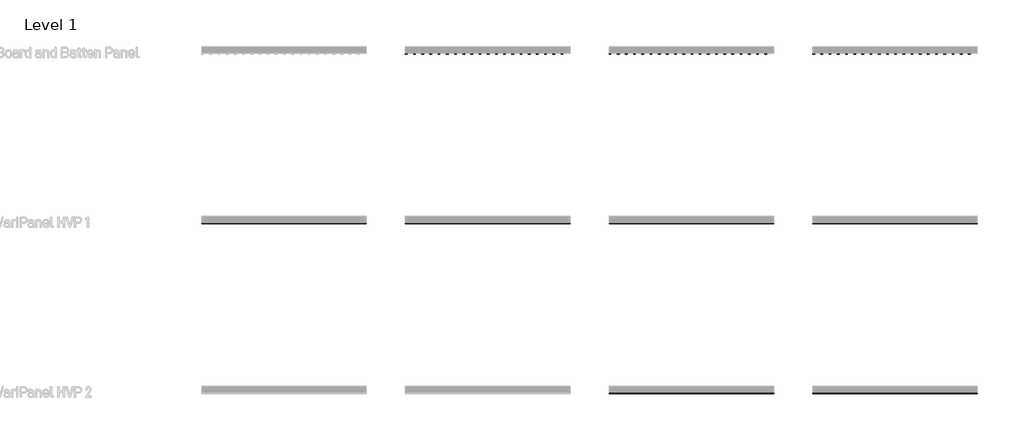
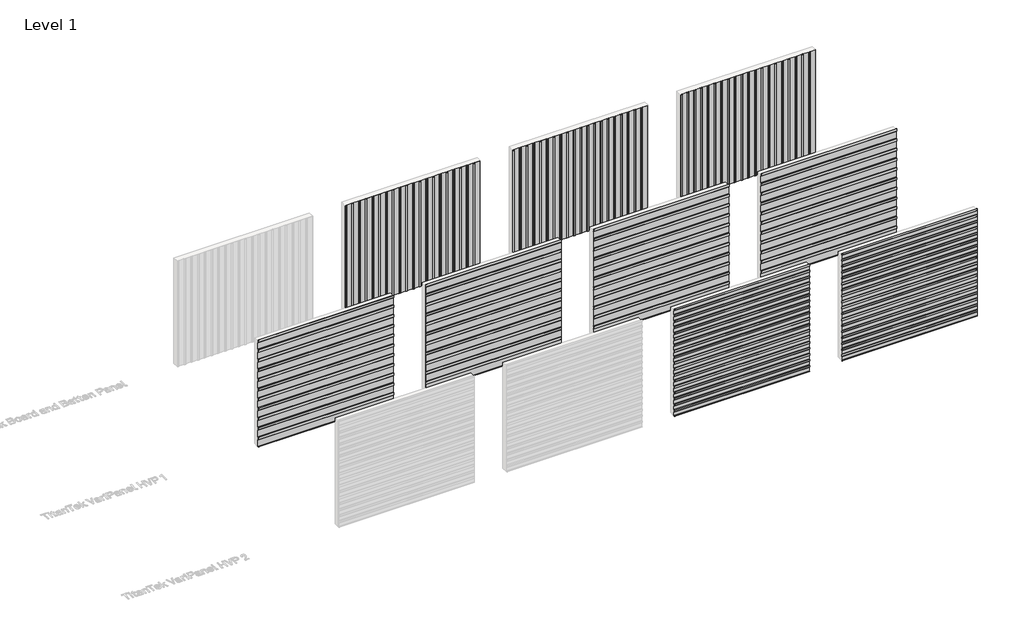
# One storey, part 9 of 33: 9 proxies.
"""IFC4 building model written with IfcOpenShell, lengths in millimetres."""

from ifc_helpers import new_model, si_unit, frame, origin, place, context, project, spatial, polyline, outline, extrude, transform, mapped, element, save
from components import titantek_board_and_batten_panel_aluminum_slate_gray_d83a0c41

model = new_model("IFC4")

# Units and contexts
model_context = context("Model", 3, world=origin())
ifc_project = project(units=[si_unit("LENGTHUNIT", "METRE", prefix="MILLI")], contexts=[model_context])

# Site, building, storey
site = spatial("IfcSite", under=ifc_project)
building = spatial("IfcBuilding", under=site)
storey = spatial("IfcBuildingStorey", under=building, Name="Level 1", Elevation=0.0)

# Proxies
placement = place(None, origin())
element("IfcBuildingElementProxy", 1, Name="TitanTek VariPanel HVP 1 : Aluminum Slate Gray", ObjectType="TitanTek VariPanel HVP 1 : Aluminum Slate Gray", at=placement, inside=storey, context=model_context, shape_type="SweptSolid", body=[
    extrude(outline(polyline([(-7945.79831, 3962.4494524), (-7921.3904975, 3937.4691739), (-7921.3904975, 3692.3692814), (-7945.79831, 3683.0), (-7945.79831, 3684.0627767), (-7922.382685, 3693.051193), (-7922.382685, 3937.064917), (-7946.7904975, 3962.0451955), (-7946.7904975, 4051.9819116), (-7945.79831, 4052.3627767), (-7945.79831, 3962.4494524)])), frame((-2360.5897817, 0.0, 0.0), z_axis=(1.0, 0.0, 0.0), x_axis=(0.0, 1.0, 0.0)), (0.0, 0.0, 1.0), 4850.0),
    extrude(outline(polyline([(-7945.79831, 3594.1494524), (-7921.3904975, 3569.1691739), (-7921.3904975, 3324.0692814), (-7945.79831, 3314.7), (-7945.79831, 3315.7627767), (-7922.382685, 3324.751193), (-7922.382685, 3568.764917), (-7946.7904975, 3593.7451955), (-7946.7904975, 3683.6819116), (-7945.79831, 3684.0627767), (-7945.79831, 3594.1494524)])), frame((-2360.5897817, 0.0, 0.0), z_axis=(1.0, 0.0, 0.0), x_axis=(0.0, 1.0, 0.0)), (0.0, 0.0, 1.0), 4850.0),
    extrude(outline(polyline([(-7945.79831, 3225.8494524), (-7921.3904975, 3200.8691739), (-7921.3904975, 2955.7692814), (-7945.79831, 2946.4), (-7945.79831, 2947.4627767), (-7922.382685, 2956.451193), (-7922.382685, 3200.464917), (-7946.7904975, 3225.4451955), (-7946.7904975, 3315.3819116), (-7945.79831, 3315.7627767), (-7945.79831, 3225.8494524)])), frame((-2360.5897817, 0.0, 0.0), z_axis=(1.0, 0.0, 0.0), x_axis=(0.0, 1.0, 0.0)), (0.0, 0.0, 1.0), 4850.0),
    extrude(outline(polyline([(-7945.79831, 2857.5494524), (-7921.3904975, 2832.5691739), (-7921.3904975, 2587.4692814), (-7945.79831, 2578.1), (-7945.79831, 2579.1627767), (-7922.382685, 2588.151193), (-7922.382685, 2832.164917), (-7946.7904975, 2857.1451955), (-7946.7904975, 2947.0819116), (-7945.79831, 2947.4627767), (-7945.79831, 2857.5494524)])), frame((-2360.5897817, 0.0, 0.0), z_axis=(1.0, 0.0, 0.0), x_axis=(0.0, 1.0, 0.0)), (0.0, 0.0, 1.0), 4850.0),
    extrude(outline(polyline([(-7945.79831, 2489.2494524), (-7921.3904975, 2464.2691739), (-7921.3904975, 2219.1692814), (-7945.79831, 2209.8), (-7945.79831, 2210.8627767), (-7922.382685, 2219.851193), (-7922.382685, 2463.864917), (-7946.7904975, 2488.8451955), (-7946.7904975, 2578.7819116), (-7945.79831, 2579.1627767), (-7945.79831, 2489.2494524)])), frame((-2360.5897817, 0.0, 0.0), z_axis=(1.0, 0.0, 0.0), x_axis=(0.0, 1.0, 0.0)), (0.0, 0.0, 1.0), 4850.0),
    extrude(outline(polyline([(-7945.79831, 2120.9494524), (-7921.3904975, 2095.9691739), (-7921.3904975, 1850.8692814), (-7945.79831, 1841.5), (-7945.79831, 1842.5627767), (-7922.382685, 1851.551193), (-7922.382685, 2095.564917), (-7946.7904975, 2120.5451955), (-7946.7904975, 2210.4819116), (-7945.79831, 2210.8627767), (-7945.79831, 2120.9494524)])), frame((-2360.5897817, 0.0, 0.0), z_axis=(1.0, 0.0, 0.0), x_axis=(0.0, 1.0, 0.0)), (0.0, 0.0, 1.0), 4850.0),
    extrude(outline(polyline([(-7945.79831, 1752.6494524), (-7921.3904975, 1727.6691739), (-7921.3904975, 1482.5692814), (-7945.79831, 1473.2), (-7945.79831, 1474.2627767), (-7922.382685, 1483.251193), (-7922.382685, 1727.264917), (-7946.7904975, 1752.2451955), (-7946.7904975, 1842.1819116), (-7945.79831, 1842.5627767), (-7945.79831, 1752.6494524)])), frame((-2360.5897817, 0.0, 0.0), z_axis=(1.0, 0.0, 0.0), x_axis=(0.0, 1.0, 0.0)), (0.0, 0.0, 1.0), 4850.0),
    extrude(outline(polyline([(-7945.79831, 1384.3494524), (-7921.3904975, 1359.3691739), (-7921.3904975, 1114.2692814), (-7945.79831, 1104.9), (-7945.79831, 1105.9627767), (-7922.382685, 1114.951193), (-7922.382685, 1358.964917), (-7946.7904975, 1383.9451955), (-7946.7904975, 1473.8819116), (-7945.79831, 1474.2627767), (-7945.79831, 1384.3494524)])), frame((-2360.5897817, 0.0, 0.0), z_axis=(1.0, 0.0, 0.0), x_axis=(0.0, 1.0, 0.0)), (0.0, 0.0, 1.0), 4850.0),
    extrude(outline(polyline([(-7945.79831, 1016.0494524), (-7921.3904975, 991.0691739), (-7921.3904975, 745.9692814), (-7945.79831, 736.6), (-7945.79831, 737.6627767), (-7922.382685, 746.651193), (-7922.382685, 990.664917), (-7946.7904975, 1015.6451955), (-7946.7904975, 1105.5819116), (-7945.79831, 1105.9627767), (-7945.79831, 1016.0494524)])), frame((-2360.5897817, 0.0, 0.0), z_axis=(1.0, 0.0, 0.0), x_axis=(0.0, 1.0, 0.0)), (0.0, 0.0, 1.0), 4850.0),
    extrude(outline(polyline([(-7945.79831, 647.7494524), (-7921.3904975, 622.7691739), (-7921.3904975, 377.6692814), (-7945.79831, 368.3), (-7945.79831, 369.3627767), (-7922.382685, 378.351193), (-7922.382685, 622.364917), (-7946.7904975, 647.3451955), (-7946.7904975, 737.2819116), (-7945.79831, 737.6627767), (-7945.79831, 647.7494524)])), frame((-2360.5897817, 0.0, 0.0), z_axis=(1.0, 0.0, 0.0), x_axis=(0.0, 1.0, 0.0)), (0.0, 0.0, 1.0), 4850.0),
    extrude(outline(polyline([(-7945.79831, 279.4494524), (-7921.3904975, 254.4691739), (-7921.3904975, 9.3692814), (-7945.79831, 0.0), (-7945.79831, 1.0627767), (-7922.382685, 10.051193), (-7922.382685, 254.064917), (-7946.7904975, 279.0451955), (-7946.7904975, 368.9819116), (-7945.79831, 369.3627767), (-7945.79831, 279.4494524)])), frame((-2360.5897817, 0.0, 0.0), z_axis=(1.0, 0.0, 0.0), x_axis=(0.0, 1.0, 0.0)), (0.0, 0.0, 1.0), 4850.0),
])
element("IfcBuildingElementProxy", 2, Name="TitanTek VariPanel HVP 1 : Steel Bone White", ObjectType="TitanTek VariPanel HVP 1 : Steel Bone White", at=placement, inside=storey, context=model_context, shape_type="SweptSolid", body=[
    extrude(outline(polyline([(-7945.79831, 279.4494524), (-7921.3904975, 254.4691739), (-7921.3904975, 9.3692814), (-7945.79831, 0.0), (-7945.79831, 1.0627767), (-7922.382685, 10.051193), (-7922.382685, 254.064917), (-7946.7904975, 279.0451955), (-7946.7904975, 368.9819116), (-7945.79831, 369.3627767), (-7945.79831, 279.4494524)])), frame((15639.4102183, 0.0, 0.0), z_axis=(1.0, 0.0, 0.0), x_axis=(0.0, 1.0, 0.0)), (0.0, 0.0, 1.0), 4850.0),
    extrude(outline(polyline([(-7945.79831, 647.7494524), (-7921.3904975, 622.7691739), (-7921.3904975, 377.6692814), (-7945.79831, 368.3), (-7945.79831, 369.3627767), (-7922.382685, 378.351193), (-7922.382685, 622.364917), (-7946.7904975, 647.3451955), (-7946.7904975, 737.2819116), (-7945.79831, 737.6627767), (-7945.79831, 647.7494524)])), frame((15639.4102183, 0.0, 0.0), z_axis=(1.0, 0.0, 0.0), x_axis=(0.0, 1.0, 0.0)), (0.0, 0.0, 1.0), 4850.0),
    extrude(outline(polyline([(-7945.79831, 1016.0494524), (-7921.3904975, 991.0691739), (-7921.3904975, 745.9692814), (-7945.79831, 736.6), (-7945.79831, 737.6627767), (-7922.382685, 746.651193), (-7922.382685, 990.664917), (-7946.7904975, 1015.6451955), (-7946.7904975, 1105.5819116), (-7945.79831, 1105.9627767), (-7945.79831, 1016.0494524)])), frame((15639.4102183, 0.0, 0.0), z_axis=(1.0, 0.0, 0.0), x_axis=(0.0, 1.0, 0.0)), (0.0, 0.0, 1.0), 4850.0),
    extrude(outline(polyline([(-7945.79831, 1384.3494524), (-7921.3904975, 1359.3691739), (-7921.3904975, 1114.2692814), (-7945.79831, 1104.9), (-7945.79831, 1105.9627767), (-7922.382685, 1114.951193), (-7922.382685, 1358.964917), (-7946.7904975, 1383.9451955), (-7946.7904975, 1473.8819116), (-7945.79831, 1474.2627767), (-7945.79831, 1384.3494524)])), frame((15639.4102183, 0.0, 0.0), z_axis=(1.0, 0.0, 0.0), x_axis=(0.0, 1.0, 0.0)), (0.0, 0.0, 1.0), 4850.0),
    extrude(outline(polyline([(-7945.79831, 1752.6494524), (-7921.3904975, 1727.6691739), (-7921.3904975, 1482.5692814), (-7945.79831, 1473.2), (-7945.79831, 1474.2627767), (-7922.382685, 1483.251193), (-7922.382685, 1727.264917), (-7946.7904975, 1752.2451955), (-7946.7904975, 1842.1819116), (-7945.79831, 1842.5627767), (-7945.79831, 1752.6494524)])), frame((15639.4102183, 0.0, 0.0), z_axis=(1.0, 0.0, 0.0), x_axis=(0.0, 1.0, 0.0)), (0.0, 0.0, 1.0), 4850.0),
    extrude(outline(polyline([(-7945.79831, 2120.9494524), (-7921.3904975, 2095.9691739), (-7921.3904975, 1850.8692814), (-7945.79831, 1841.5), (-7945.79831, 1842.5627767), (-7922.382685, 1851.551193), (-7922.382685, 2095.564917), (-7946.7904975, 2120.5451955), (-7946.7904975, 2210.4819116), (-7945.79831, 2210.8627767), (-7945.79831, 2120.9494524)])), frame((15639.4102183, 0.0, 0.0), z_axis=(1.0, 0.0, 0.0), x_axis=(0.0, 1.0, 0.0)), (0.0, 0.0, 1.0), 4850.0),
    extrude(outline(polyline([(-7945.79831, 2489.2494524), (-7921.3904975, 2464.2691739), (-7921.3904975, 2219.1692814), (-7945.79831, 2209.8), (-7945.79831, 2210.8627767), (-7922.382685, 2219.851193), (-7922.382685, 2463.864917), (-7946.7904975, 2488.8451955), (-7946.7904975, 2578.7819116), (-7945.79831, 2579.1627767), (-7945.79831, 2489.2494524)])), frame((15639.4102183, 0.0, 0.0), z_axis=(1.0, 0.0, 0.0), x_axis=(0.0, 1.0, 0.0)), (0.0, 0.0, 1.0), 4850.0),
    extrude(outline(polyline([(-7945.79831, 2857.5494524), (-7921.3904975, 2832.5691739), (-7921.3904975, 2587.4692814), (-7945.79831, 2578.1), (-7945.79831, 2579.1627767), (-7922.382685, 2588.151193), (-7922.382685, 2832.164917), (-7946.7904975, 2857.1451955), (-7946.7904975, 2947.0819116), (-7945.79831, 2947.4627767), (-7945.79831, 2857.5494524)])), frame((15639.4102183, 0.0, 0.0), z_axis=(1.0, 0.0, 0.0), x_axis=(0.0, 1.0, 0.0)), (0.0, 0.0, 1.0), 4850.0),
    extrude(outline(polyline([(-7945.79831, 3225.8494524), (-7921.3904975, 3200.8691739), (-7921.3904975, 2955.7692814), (-7945.79831, 2946.4), (-7945.79831, 2947.4627767), (-7922.382685, 2956.451193), (-7922.382685, 3200.464917), (-7946.7904975, 3225.4451955), (-7946.7904975, 3315.3819116), (-7945.79831, 3315.7627767), (-7945.79831, 3225.8494524)])), frame((15639.4102183, 0.0, 0.0), z_axis=(1.0, 0.0, 0.0), x_axis=(0.0, 1.0, 0.0)), (0.0, 0.0, 1.0), 4850.0),
    extrude(outline(polyline([(-7945.79831, 3594.1494524), (-7921.3904975, 3569.1691739), (-7921.3904975, 3324.0692814), (-7945.79831, 3314.7), (-7945.79831, 3315.7627767), (-7922.382685, 3324.751193), (-7922.382685, 3568.764917), (-7946.7904975, 3593.7451955), (-7946.7904975, 3683.6819116), (-7945.79831, 3684.0627767), (-7945.79831, 3594.1494524)])), frame((15639.4102183, 0.0, 0.0), z_axis=(1.0, 0.0, 0.0), x_axis=(0.0, 1.0, 0.0)), (0.0, 0.0, 1.0), 4850.0),
    extrude(outline(polyline([(-7945.79831, 3962.4494524), (-7921.3904975, 3937.4691739), (-7921.3904975, 3692.3692814), (-7945.79831, 3683.0), (-7945.79831, 3684.0627767), (-7922.382685, 3693.051193), (-7922.382685, 3937.064917), (-7946.7904975, 3962.0451955), (-7946.7904975, 4051.9819116), (-7945.79831, 4052.3627767), (-7945.79831, 3962.4494524)])), frame((15639.4102183, 0.0, 0.0), z_axis=(1.0, 0.0, 0.0), x_axis=(0.0, 1.0, 0.0)), (0.0, 0.0, 1.0), 4850.0),
])
element("IfcBuildingElementProxy", 3, Name="TitanTek VariPanel HVP 2 : Steel Bone White", ObjectType="TitanTek VariPanel HVP 2 : Steel Bone White", at=placement, inside=storey, context=model_context, shape_type="SweptSolid", body=[
    extrude(outline(polyline([(-12945.79831, 390.929257), (-12921.3904975, 365.9489785), (-12921.3904975, 238.9489785), (-12945.79831, 229.5796971), (-12945.79831, 161.3495599), (-12921.3904975, 136.3692814), (-12921.3904975, 9.3692814), (-12945.79831, 0.0), (-12945.79831, 1.0627767), (-12922.382685, 10.051193), (-12922.382685, 135.9650244), (-12946.7904975, 160.9453029), (-12946.7904975, 230.2616087), (-12922.382685, 239.63089), (-12922.382685, 365.5447215), (-12946.7904975, 390.525), (-12946.7904975, 450.4691349), (-12945.79831, 450.85), (-12945.79831, 390.929257)])), frame((15639.4102183, 0.0, 0.0), z_axis=(1.0, 0.0, 0.0), x_axis=(0.0, 1.0, 0.0)), (0.0, 0.0, 1.0), 4850.0),
    extrude(outline(polyline([(-12945.79831, 841.779257), (-12921.3904975, 816.7989785), (-12921.3904975, 689.7989785), (-12945.79831, 680.4296971), (-12945.79831, 612.1995599), (-12921.3904975, 587.2192814), (-12921.3904975, 460.2192814), (-12945.79831, 450.85), (-12945.79831, 451.9127767), (-12922.382685, 460.901193), (-12922.382685, 586.8150244), (-12946.7904975, 611.7953029), (-12946.7904975, 681.1116087), (-12922.382685, 690.48089), (-12922.382685, 816.3947215), (-12946.7904975, 841.375), (-12946.7904975, 901.3191349), (-12945.79831, 901.7), (-12945.79831, 841.779257)])), frame((15639.4102183, 0.0, 0.0), z_axis=(1.0, 0.0, 0.0), x_axis=(0.0, 1.0, 0.0)), (0.0, 0.0, 1.0), 4850.0),
    extrude(outline(polyline([(-12945.79831, 1292.629257), (-12921.3904975, 1267.6489785), (-12921.3904975, 1140.6489785), (-12945.79831, 1131.2796971), (-12945.79831, 1063.0495599), (-12921.3904975, 1038.0692814), (-12921.3904975, 911.0692814), (-12945.79831, 901.7), (-12945.79831, 902.7627767), (-12922.382685, 911.751193), (-12922.382685, 1037.6650244), (-12946.7904975, 1062.6453029), (-12946.7904975, 1131.9616087), (-12922.382685, 1141.33089), (-12922.382685, 1267.2447215), (-12946.7904975, 1292.225), (-12946.7904975, 1352.1691349), (-12945.79831, 1352.55), (-12945.79831, 1292.629257)])), frame((15639.4102183, 0.0, 0.0), z_axis=(1.0, 0.0, 0.0), x_axis=(0.0, 1.0, 0.0)), (0.0, 0.0, 1.0), 4850.0),
    extrude(outline(polyline([(-12945.79831, 1743.479257), (-12921.3904975, 1718.4989785), (-12921.3904975, 1591.4989785), (-12945.79831, 1582.1296971), (-12945.79831, 1513.8995599), (-12921.3904975, 1488.9192814), (-12921.3904975, 1361.9192814), (-12945.79831, 1352.55), (-12945.79831, 1353.6127767), (-12922.382685, 1362.601193), (-12922.382685, 1488.5150244), (-12946.7904975, 1513.4953029), (-12946.7904975, 1582.8116087), (-12922.382685, 1592.18089), (-12922.382685, 1718.0947215), (-12946.7904975, 1743.075), (-12946.7904975, 1803.0191349), (-12945.79831, 1803.4), (-12945.79831, 1743.479257)])), frame((15639.4102183, 0.0, 0.0), z_axis=(1.0, 0.0, 0.0), x_axis=(0.0, 1.0, 0.0)), (0.0, 0.0, 1.0), 4850.0),
    extrude(outline(polyline([(-12945.79831, 2194.329257), (-12921.3904975, 2169.3489785), (-12921.3904975, 2042.3489785), (-12945.79831, 2032.9796971), (-12945.79831, 1964.7495599), (-12921.3904975, 1939.7692814), (-12921.3904975, 1812.7692814), (-12945.79831, 1803.4), (-12945.79831, 1804.4627767), (-12922.382685, 1813.451193), (-12922.382685, 1939.3650244), (-12946.7904975, 1964.3453029), (-12946.7904975, 2033.6616087), (-12922.382685, 2043.03089), (-12922.382685, 2168.9447215), (-12946.7904975, 2193.925), (-12946.7904975, 2253.8691349), (-12945.79831, 2254.25), (-12945.79831, 2194.329257)])), frame((15639.4102183, 0.0, 0.0), z_axis=(1.0, 0.0, 0.0), x_axis=(0.0, 1.0, 0.0)), (0.0, 0.0, 1.0), 4850.0),
    extrude(outline(polyline([(-12945.79831, 2645.179257), (-12921.3904975, 2620.1989785), (-12921.3904975, 2493.1989785), (-12945.79831, 2483.8296971), (-12945.79831, 2415.5995599), (-12921.3904975, 2390.6192814), (-12921.3904975, 2263.6192814), (-12945.79831, 2254.25), (-12945.79831, 2255.3127767), (-12922.382685, 2264.301193), (-12922.382685, 2390.2150244), (-12946.7904975, 2415.1953029), (-12946.7904975, 2484.5116087), (-12922.382685, 2493.88089), (-12922.382685, 2619.7947215), (-12946.7904975, 2644.775), (-12946.7904975, 2704.7191349), (-12945.79831, 2705.1), (-12945.79831, 2645.179257)])), frame((15639.4102183, 0.0, 0.0), z_axis=(1.0, 0.0, 0.0), x_axis=(0.0, 1.0, 0.0)), (0.0, 0.0, 1.0), 4850.0),
    extrude(outline(polyline([(-12945.79831, 3096.029257), (-12921.3904975, 3071.0489785), (-12921.3904975, 2944.0489785), (-12945.79831, 2934.6796971), (-12945.79831, 2866.4495599), (-12921.3904975, 2841.4692814), (-12921.3904975, 2714.4692814), (-12945.79831, 2705.1), (-12945.79831, 2706.1627767), (-12922.382685, 2715.151193), (-12922.382685, 2841.0650244), (-12946.7904975, 2866.0453029), (-12946.7904975, 2935.3616087), (-12922.382685, 2944.73089), (-12922.382685, 3070.6447215), (-12946.7904975, 3095.625), (-12946.7904975, 3155.5691349), (-12945.79831, 3155.95), (-12945.79831, 3096.029257)])), frame((15639.4102183, 0.0, 0.0), z_axis=(1.0, 0.0, 0.0), x_axis=(0.0, 1.0, 0.0)), (0.0, 0.0, 1.0), 4850.0),
    extrude(outline(polyline([(-12945.79831, 3546.879257), (-12921.3904975, 3521.8989785), (-12921.3904975, 3394.8989785), (-12945.79831, 3385.5296971), (-12945.79831, 3317.2995599), (-12921.3904975, 3292.3192814), (-12921.3904975, 3165.3192814), (-12945.79831, 3155.95), (-12945.79831, 3157.0127767), (-12922.382685, 3166.001193), (-12922.382685, 3291.9150244), (-12946.7904975, 3316.8953029), (-12946.7904975, 3386.2116087), (-12922.382685, 3395.58089), (-12922.382685, 3521.4947215), (-12946.7904975, 3546.475), (-12946.7904975, 3606.4191349), (-12945.79831, 3606.8), (-12945.79831, 3546.879257)])), frame((15639.4102183, 0.0, 0.0), z_axis=(1.0, 0.0, 0.0), x_axis=(0.0, 1.0, 0.0)), (0.0, 0.0, 1.0), 4850.0),
    extrude(outline(polyline([(-12945.79831, 3997.729257), (-12921.3904975, 3972.7489785), (-12921.3904975, 3845.7489785), (-12945.79831, 3836.3796971), (-12945.79831, 3768.1495599), (-12921.3904975, 3743.1692814), (-12921.3904975, 3616.1692814), (-12945.79831, 3606.8), (-12945.79831, 3607.8627767), (-12922.382685, 3616.851193), (-12922.382685, 3742.7650244), (-12946.7904975, 3767.7453029), (-12946.7904975, 3837.0616087), (-12922.382685, 3846.43089), (-12922.382685, 3972.3447215), (-12946.7904975, 3997.325), (-12946.7904975, 4057.2691349), (-12945.79831, 4057.65), (-12945.79831, 3997.729257)])), frame((15639.4102183, 0.0, 0.0), z_axis=(1.0, 0.0, 0.0), x_axis=(0.0, 1.0, 0.0)), (0.0, 0.0, 1.0), 4850.0),
])
element("IfcBuildingElementProxy", 4, Name="TitanTek VariPanel HVP 1 : Steel Hemlock Green", ObjectType="TitanTek VariPanel HVP 1 : Steel Hemlock Green", at=placement, inside=storey, context=model_context, shape_type="SweptSolid", body=[
    extrude(outline(polyline([(-7945.79831, 279.4494524), (-7921.3904975, 254.4691739), (-7921.3904975, 9.3692814), (-7945.79831, 0.0), (-7945.79831, 1.0627767), (-7922.382685, 10.051193), (-7922.382685, 254.064917), (-7946.7904975, 279.0451955), (-7946.7904975, 368.9819116), (-7945.79831, 369.3627767), (-7945.79831, 279.4494524)])), frame((9639.4102183, 0.0, 0.0), z_axis=(1.0, 0.0, 0.0), x_axis=(0.0, 1.0, 0.0)), (0.0, 0.0, 1.0), 4850.0),
    extrude(outline(polyline([(-7945.79831, 647.7494524), (-7921.3904975, 622.7691739), (-7921.3904975, 377.6692814), (-7945.79831, 368.3), (-7945.79831, 369.3627767), (-7922.382685, 378.351193), (-7922.382685, 622.364917), (-7946.7904975, 647.3451955), (-7946.7904975, 737.2819116), (-7945.79831, 737.6627767), (-7945.79831, 647.7494524)])), frame((9639.4102183, 0.0, 0.0), z_axis=(1.0, 0.0, 0.0), x_axis=(0.0, 1.0, 0.0)), (0.0, 0.0, 1.0), 4850.0),
    extrude(outline(polyline([(-7945.79831, 1016.0494524), (-7921.3904975, 991.0691739), (-7921.3904975, 745.9692814), (-7945.79831, 736.6), (-7945.79831, 737.6627767), (-7922.382685, 746.651193), (-7922.382685, 990.664917), (-7946.7904975, 1015.6451955), (-7946.7904975, 1105.5819116), (-7945.79831, 1105.9627767), (-7945.79831, 1016.0494524)])), frame((9639.4102183, 0.0, 0.0), z_axis=(1.0, 0.0, 0.0), x_axis=(0.0, 1.0, 0.0)), (0.0, 0.0, 1.0), 4850.0),
    extrude(outline(polyline([(-7945.79831, 1384.3494524), (-7921.3904975, 1359.3691739), (-7921.3904975, 1114.2692814), (-7945.79831, 1104.9), (-7945.79831, 1105.9627767), (-7922.382685, 1114.951193), (-7922.382685, 1358.964917), (-7946.7904975, 1383.9451955), (-7946.7904975, 1473.8819116), (-7945.79831, 1474.2627767), (-7945.79831, 1384.3494524)])), frame((9639.4102183, 0.0, 0.0), z_axis=(1.0, 0.0, 0.0), x_axis=(0.0, 1.0, 0.0)), (0.0, 0.0, 1.0), 4850.0),
    extrude(outline(polyline([(-7945.79831, 1752.6494524), (-7921.3904975, 1727.6691739), (-7921.3904975, 1482.5692814), (-7945.79831, 1473.2), (-7945.79831, 1474.2627767), (-7922.382685, 1483.251193), (-7922.382685, 1727.264917), (-7946.7904975, 1752.2451955), (-7946.7904975, 1842.1819116), (-7945.79831, 1842.5627767), (-7945.79831, 1752.6494524)])), frame((9639.4102183, 0.0, 0.0), z_axis=(1.0, 0.0, 0.0), x_axis=(0.0, 1.0, 0.0)), (0.0, 0.0, 1.0), 4850.0),
    extrude(outline(polyline([(-7945.79831, 2120.9494524), (-7921.3904975, 2095.9691739), (-7921.3904975, 1850.8692814), (-7945.79831, 1841.5), (-7945.79831, 1842.5627767), (-7922.382685, 1851.551193), (-7922.382685, 2095.564917), (-7946.7904975, 2120.5451955), (-7946.7904975, 2210.4819116), (-7945.79831, 2210.8627767), (-7945.79831, 2120.9494524)])), frame((9639.4102183, 0.0, 0.0), z_axis=(1.0, 0.0, 0.0), x_axis=(0.0, 1.0, 0.0)), (0.0, 0.0, 1.0), 4850.0),
    extrude(outline(polyline([(-7945.79831, 2489.2494524), (-7921.3904975, 2464.2691739), (-7921.3904975, 2219.1692814), (-7945.79831, 2209.8), (-7945.79831, 2210.8627767), (-7922.382685, 2219.851193), (-7922.382685, 2463.864917), (-7946.7904975, 2488.8451955), (-7946.7904975, 2578.7819116), (-7945.79831, 2579.1627767), (-7945.79831, 2489.2494524)])), frame((9639.4102183, 0.0, 0.0), z_axis=(1.0, 0.0, 0.0), x_axis=(0.0, 1.0, 0.0)), (0.0, 0.0, 1.0), 4850.0),
    extrude(outline(polyline([(-7945.79831, 2857.5494524), (-7921.3904975, 2832.5691739), (-7921.3904975, 2587.4692814), (-7945.79831, 2578.1), (-7945.79831, 2579.1627767), (-7922.382685, 2588.151193), (-7922.382685, 2832.164917), (-7946.7904975, 2857.1451955), (-7946.7904975, 2947.0819116), (-7945.79831, 2947.4627767), (-7945.79831, 2857.5494524)])), frame((9639.4102183, 0.0, 0.0), z_axis=(1.0, 0.0, 0.0), x_axis=(0.0, 1.0, 0.0)), (0.0, 0.0, 1.0), 4850.0),
    extrude(outline(polyline([(-7945.79831, 3225.8494524), (-7921.3904975, 3200.8691739), (-7921.3904975, 2955.7692814), (-7945.79831, 2946.4), (-7945.79831, 2947.4627767), (-7922.382685, 2956.451193), (-7922.382685, 3200.464917), (-7946.7904975, 3225.4451955), (-7946.7904975, 3315.3819116), (-7945.79831, 3315.7627767), (-7945.79831, 3225.8494524)])), frame((9639.4102183, 0.0, 0.0), z_axis=(1.0, 0.0, 0.0), x_axis=(0.0, 1.0, 0.0)), (0.0, 0.0, 1.0), 4850.0),
    extrude(outline(polyline([(-7945.79831, 3594.1494524), (-7921.3904975, 3569.1691739), (-7921.3904975, 3324.0692814), (-7945.79831, 3314.7), (-7945.79831, 3315.7627767), (-7922.382685, 3324.751193), (-7922.382685, 3568.764917), (-7946.7904975, 3593.7451955), (-7946.7904975, 3683.6819116), (-7945.79831, 3684.0627767), (-7945.79831, 3594.1494524)])), frame((9639.4102183, 0.0, 0.0), z_axis=(1.0, 0.0, 0.0), x_axis=(0.0, 1.0, 0.0)), (0.0, 0.0, 1.0), 4850.0),
    extrude(outline(polyline([(-7945.79831, 3962.4494524), (-7921.3904975, 3937.4691739), (-7921.3904975, 3692.3692814), (-7945.79831, 3683.0), (-7945.79831, 3684.0627767), (-7922.382685, 3693.051193), (-7922.382685, 3937.064917), (-7946.7904975, 3962.0451955), (-7946.7904975, 4051.9819116), (-7945.79831, 4052.3627767), (-7945.79831, 3962.4494524)])), frame((9639.4102183, 0.0, 0.0), z_axis=(1.0, 0.0, 0.0), x_axis=(0.0, 1.0, 0.0)), (0.0, 0.0, 1.0), 4850.0),
])
element("IfcBuildingElementProxy", 5, Name="TitanTek VariPanel HVP 2 : Steel Hemlock Green", ObjectType="TitanTek VariPanel HVP 2 : Steel Hemlock Green", at=placement, inside=storey, context=model_context, shape_type="SweptSolid", body=[
    extrude(outline(polyline([(-12945.79831, 390.929257), (-12921.3904975, 365.9489785), (-12921.3904975, 238.9489785), (-12945.79831, 229.5796971), (-12945.79831, 161.3495599), (-12921.3904975, 136.3692814), (-12921.3904975, 9.3692814), (-12945.79831, 0.0), (-12945.79831, 1.0627767), (-12922.382685, 10.051193), (-12922.382685, 135.9650244), (-12946.7904975, 160.9453029), (-12946.7904975, 230.2616087), (-12922.382685, 239.63089), (-12922.382685, 365.5447215), (-12946.7904975, 390.525), (-12946.7904975, 450.4691349), (-12945.79831, 450.85), (-12945.79831, 390.929257)])), frame((9639.4102183, 0.0, 0.0), z_axis=(1.0, 0.0, 0.0), x_axis=(0.0, 1.0, 0.0)), (0.0, 0.0, 1.0), 4850.0),
    extrude(outline(polyline([(-12945.79831, 841.779257), (-12921.3904975, 816.7989785), (-12921.3904975, 689.7989785), (-12945.79831, 680.4296971), (-12945.79831, 612.1995599), (-12921.3904975, 587.2192814), (-12921.3904975, 460.2192814), (-12945.79831, 450.85), (-12945.79831, 451.9127767), (-12922.382685, 460.901193), (-12922.382685, 586.8150244), (-12946.7904975, 611.7953029), (-12946.7904975, 681.1116087), (-12922.382685, 690.48089), (-12922.382685, 816.3947215), (-12946.7904975, 841.375), (-12946.7904975, 901.3191349), (-12945.79831, 901.7), (-12945.79831, 841.779257)])), frame((9639.4102183, 0.0, 0.0), z_axis=(1.0, 0.0, 0.0), x_axis=(0.0, 1.0, 0.0)), (0.0, 0.0, 1.0), 4850.0),
    extrude(outline(polyline([(-12945.79831, 1292.629257), (-12921.3904975, 1267.6489785), (-12921.3904975, 1140.6489785), (-12945.79831, 1131.2796971), (-12945.79831, 1063.0495599), (-12921.3904975, 1038.0692814), (-12921.3904975, 911.0692814), (-12945.79831, 901.7), (-12945.79831, 902.7627767), (-12922.382685, 911.751193), (-12922.382685, 1037.6650244), (-12946.7904975, 1062.6453029), (-12946.7904975, 1131.9616087), (-12922.382685, 1141.33089), (-12922.382685, 1267.2447215), (-12946.7904975, 1292.225), (-12946.7904975, 1352.1691349), (-12945.79831, 1352.55), (-12945.79831, 1292.629257)])), frame((9639.4102183, 0.0, 0.0), z_axis=(1.0, 0.0, 0.0), x_axis=(0.0, 1.0, 0.0)), (0.0, 0.0, 1.0), 4850.0),
    extrude(outline(polyline([(-12945.79831, 1743.479257), (-12921.3904975, 1718.4989785), (-12921.3904975, 1591.4989785), (-12945.79831, 1582.1296971), (-12945.79831, 1513.8995599), (-12921.3904975, 1488.9192814), (-12921.3904975, 1361.9192814), (-12945.79831, 1352.55), (-12945.79831, 1353.6127767), (-12922.382685, 1362.601193), (-12922.382685, 1488.5150244), (-12946.7904975, 1513.4953029), (-12946.7904975, 1582.8116087), (-12922.382685, 1592.18089), (-12922.382685, 1718.0947215), (-12946.7904975, 1743.075), (-12946.7904975, 1803.0191349), (-12945.79831, 1803.4), (-12945.79831, 1743.479257)])), frame((9639.4102183, 0.0, 0.0), z_axis=(1.0, 0.0, 0.0), x_axis=(0.0, 1.0, 0.0)), (0.0, 0.0, 1.0), 4850.0),
    extrude(outline(polyline([(-12945.79831, 2194.329257), (-12921.3904975, 2169.3489785), (-12921.3904975, 2042.3489785), (-12945.79831, 2032.9796971), (-12945.79831, 1964.7495599), (-12921.3904975, 1939.7692814), (-12921.3904975, 1812.7692814), (-12945.79831, 1803.4), (-12945.79831, 1804.4627767), (-12922.382685, 1813.451193), (-12922.382685, 1939.3650244), (-12946.7904975, 1964.3453029), (-12946.7904975, 2033.6616087), (-12922.382685, 2043.03089), (-12922.382685, 2168.9447215), (-12946.7904975, 2193.925), (-12946.7904975, 2253.8691349), (-12945.79831, 2254.25), (-12945.79831, 2194.329257)])), frame((9639.4102183, 0.0, 0.0), z_axis=(1.0, 0.0, 0.0), x_axis=(0.0, 1.0, 0.0)), (0.0, 0.0, 1.0), 4850.0),
    extrude(outline(polyline([(-12945.79831, 2645.179257), (-12921.3904975, 2620.1989785), (-12921.3904975, 2493.1989785), (-12945.79831, 2483.8296971), (-12945.79831, 2415.5995599), (-12921.3904975, 2390.6192814), (-12921.3904975, 2263.6192814), (-12945.79831, 2254.25), (-12945.79831, 2255.3127767), (-12922.382685, 2264.301193), (-12922.382685, 2390.2150244), (-12946.7904975, 2415.1953029), (-12946.7904975, 2484.5116087), (-12922.382685, 2493.88089), (-12922.382685, 2619.7947215), (-12946.7904975, 2644.775), (-12946.7904975, 2704.7191349), (-12945.79831, 2705.1), (-12945.79831, 2645.179257)])), frame((9639.4102183, 0.0, 0.0), z_axis=(1.0, 0.0, 0.0), x_axis=(0.0, 1.0, 0.0)), (0.0, 0.0, 1.0), 4850.0),
    extrude(outline(polyline([(-12945.79831, 3096.029257), (-12921.3904975, 3071.0489785), (-12921.3904975, 2944.0489785), (-12945.79831, 2934.6796971), (-12945.79831, 2866.4495599), (-12921.3904975, 2841.4692814), (-12921.3904975, 2714.4692814), (-12945.79831, 2705.1), (-12945.79831, 2706.1627767), (-12922.382685, 2715.151193), (-12922.382685, 2841.0650244), (-12946.7904975, 2866.0453029), (-12946.7904975, 2935.3616087), (-12922.382685, 2944.73089), (-12922.382685, 3070.6447215), (-12946.7904975, 3095.625), (-12946.7904975, 3155.5691349), (-12945.79831, 3155.95), (-12945.79831, 3096.029257)])), frame((9639.4102183, 0.0, 0.0), z_axis=(1.0, 0.0, 0.0), x_axis=(0.0, 1.0, 0.0)), (0.0, 0.0, 1.0), 4850.0),
    extrude(outline(polyline([(-12945.79831, 3546.879257), (-12921.3904975, 3521.8989785), (-12921.3904975, 3394.8989785), (-12945.79831, 3385.5296971), (-12945.79831, 3317.2995599), (-12921.3904975, 3292.3192814), (-12921.3904975, 3165.3192814), (-12945.79831, 3155.95), (-12945.79831, 3157.0127767), (-12922.382685, 3166.001193), (-12922.382685, 3291.9150244), (-12946.7904975, 3316.8953029), (-12946.7904975, 3386.2116087), (-12922.382685, 3395.58089), (-12922.382685, 3521.4947215), (-12946.7904975, 3546.475), (-12946.7904975, 3606.4191349), (-12945.79831, 3606.8), (-12945.79831, 3546.879257)])), frame((9639.4102183, 0.0, 0.0), z_axis=(1.0, 0.0, 0.0), x_axis=(0.0, 1.0, 0.0)), (0.0, 0.0, 1.0), 4850.0),
    extrude(outline(polyline([(-12945.79831, 3997.729257), (-12921.3904975, 3972.7489785), (-12921.3904975, 3845.7489785), (-12945.79831, 3836.3796971), (-12945.79831, 3768.1495599), (-12921.3904975, 3743.1692814), (-12921.3904975, 3616.1692814), (-12945.79831, 3606.8), (-12945.79831, 3607.8627767), (-12922.382685, 3616.851193), (-12922.382685, 3742.7650244), (-12946.7904975, 3767.7453029), (-12946.7904975, 3837.0616087), (-12922.382685, 3846.43089), (-12922.382685, 3972.3447215), (-12946.7904975, 3997.325), (-12946.7904975, 4057.2691349), (-12945.79831, 4057.65), (-12945.79831, 3997.729257)])), frame((9639.4102183, 0.0, 0.0), z_axis=(1.0, 0.0, 0.0), x_axis=(0.0, 1.0, 0.0)), (0.0, 0.0, 1.0), 4850.0),
])
element("IfcBuildingElementProxy", 6, Name="TitanTek VariPanel HVP 1 : Steel Regal Red", ObjectType="TitanTek VariPanel HVP 1 : Steel Regal Red", at=placement, inside=storey, context=model_context, shape_type="SweptSolid", body=[
    extrude(outline(polyline([(-7945.79831, 279.4494524), (-7921.3904975, 254.4691739), (-7921.3904975, 9.3692814), (-7945.79831, 0.0), (-7945.79831, 1.0627767), (-7922.382685, 10.051193), (-7922.382685, 254.064917), (-7946.7904975, 279.0451955), (-7946.7904975, 368.9819116), (-7945.79831, 369.3627767), (-7945.79831, 279.4494524)])), frame((3639.4102183, 0.0, 0.0), z_axis=(1.0, 0.0, 0.0), x_axis=(0.0, 1.0, 0.0)), (0.0, 0.0, 1.0), 4850.0),
    extrude(outline(polyline([(-7945.79831, 647.7494524), (-7921.3904975, 622.7691739), (-7921.3904975, 377.6692814), (-7945.79831, 368.3), (-7945.79831, 369.3627767), (-7922.382685, 378.351193), (-7922.382685, 622.364917), (-7946.7904975, 647.3451955), (-7946.7904975, 737.2819116), (-7945.79831, 737.6627767), (-7945.79831, 647.7494524)])), frame((3639.4102183, 0.0, 0.0), z_axis=(1.0, 0.0, 0.0), x_axis=(0.0, 1.0, 0.0)), (0.0, 0.0, 1.0), 4850.0),
    extrude(outline(polyline([(-7945.79831, 1016.0494524), (-7921.3904975, 991.0691739), (-7921.3904975, 745.9692814), (-7945.79831, 736.6), (-7945.79831, 737.6627767), (-7922.382685, 746.651193), (-7922.382685, 990.664917), (-7946.7904975, 1015.6451955), (-7946.7904975, 1105.5819116), (-7945.79831, 1105.9627767), (-7945.79831, 1016.0494524)])), frame((3639.4102183, 0.0, 0.0), z_axis=(1.0, 0.0, 0.0), x_axis=(0.0, 1.0, 0.0)), (0.0, 0.0, 1.0), 4850.0),
    extrude(outline(polyline([(-7945.79831, 1384.3494524), (-7921.3904975, 1359.3691739), (-7921.3904975, 1114.2692814), (-7945.79831, 1104.9), (-7945.79831, 1105.9627767), (-7922.382685, 1114.951193), (-7922.382685, 1358.964917), (-7946.7904975, 1383.9451955), (-7946.7904975, 1473.8819116), (-7945.79831, 1474.2627767), (-7945.79831, 1384.3494524)])), frame((3639.4102183, 0.0, 0.0), z_axis=(1.0, 0.0, 0.0), x_axis=(0.0, 1.0, 0.0)), (0.0, 0.0, 1.0), 4850.0),
    extrude(outline(polyline([(-7945.79831, 1752.6494524), (-7921.3904975, 1727.6691739), (-7921.3904975, 1482.5692814), (-7945.79831, 1473.2), (-7945.79831, 1474.2627767), (-7922.382685, 1483.251193), (-7922.382685, 1727.264917), (-7946.7904975, 1752.2451955), (-7946.7904975, 1842.1819116), (-7945.79831, 1842.5627767), (-7945.79831, 1752.6494524)])), frame((3639.4102183, 0.0, 0.0), z_axis=(1.0, 0.0, 0.0), x_axis=(0.0, 1.0, 0.0)), (0.0, 0.0, 1.0), 4850.0),
    extrude(outline(polyline([(-7945.79831, 2120.9494524), (-7921.3904975, 2095.9691739), (-7921.3904975, 1850.8692814), (-7945.79831, 1841.5), (-7945.79831, 1842.5627767), (-7922.382685, 1851.551193), (-7922.382685, 2095.564917), (-7946.7904975, 2120.5451955), (-7946.7904975, 2210.4819116), (-7945.79831, 2210.8627767), (-7945.79831, 2120.9494524)])), frame((3639.4102183, 0.0, 0.0), z_axis=(1.0, 0.0, 0.0), x_axis=(0.0, 1.0, 0.0)), (0.0, 0.0, 1.0), 4850.0),
    extrude(outline(polyline([(-7945.79831, 2489.2494524), (-7921.3904975, 2464.2691739), (-7921.3904975, 2219.1692814), (-7945.79831, 2209.8), (-7945.79831, 2210.8627767), (-7922.382685, 2219.851193), (-7922.382685, 2463.864917), (-7946.7904975, 2488.8451955), (-7946.7904975, 2578.7819116), (-7945.79831, 2579.1627767), (-7945.79831, 2489.2494524)])), frame((3639.4102183, 0.0, 0.0), z_axis=(1.0, 0.0, 0.0), x_axis=(0.0, 1.0, 0.0)), (0.0, 0.0, 1.0), 4850.0),
    extrude(outline(polyline([(-7945.79831, 2857.5494524), (-7921.3904975, 2832.5691739), (-7921.3904975, 2587.4692814), (-7945.79831, 2578.1), (-7945.79831, 2579.1627767), (-7922.382685, 2588.151193), (-7922.382685, 2832.164917), (-7946.7904975, 2857.1451955), (-7946.7904975, 2947.0819116), (-7945.79831, 2947.4627767), (-7945.79831, 2857.5494524)])), frame((3639.4102183, 0.0, 0.0), z_axis=(1.0, 0.0, 0.0), x_axis=(0.0, 1.0, 0.0)), (0.0, 0.0, 1.0), 4850.0),
    extrude(outline(polyline([(-7945.79831, 3225.8494524), (-7921.3904975, 3200.8691739), (-7921.3904975, 2955.7692814), (-7945.79831, 2946.4), (-7945.79831, 2947.4627767), (-7922.382685, 2956.451193), (-7922.382685, 3200.464917), (-7946.7904975, 3225.4451955), (-7946.7904975, 3315.3819116), (-7945.79831, 3315.7627767), (-7945.79831, 3225.8494524)])), frame((3639.4102183, 0.0, 0.0), z_axis=(1.0, 0.0, 0.0), x_axis=(0.0, 1.0, 0.0)), (0.0, 0.0, 1.0), 4850.0),
    extrude(outline(polyline([(-7945.79831, 3594.1494524), (-7921.3904975, 3569.1691739), (-7921.3904975, 3324.0692814), (-7945.79831, 3314.7), (-7945.79831, 3315.7627767), (-7922.382685, 3324.751193), (-7922.382685, 3568.764917), (-7946.7904975, 3593.7451955), (-7946.7904975, 3683.6819116), (-7945.79831, 3684.0627767), (-7945.79831, 3594.1494524)])), frame((3639.4102183, 0.0, 0.0), z_axis=(1.0, 0.0, 0.0), x_axis=(0.0, 1.0, 0.0)), (0.0, 0.0, 1.0), 4850.0),
    extrude(outline(polyline([(-7945.79831, 3962.4494524), (-7921.3904975, 3937.4691739), (-7921.3904975, 3692.3692814), (-7945.79831, 3683.0), (-7945.79831, 3684.0627767), (-7922.382685, 3693.051193), (-7922.382685, 3937.064917), (-7946.7904975, 3962.0451955), (-7946.7904975, 4051.9819116), (-7945.79831, 4052.3627767), (-7945.79831, 3962.4494524)])), frame((3639.4102183, 0.0, 0.0), z_axis=(1.0, 0.0, 0.0), x_axis=(0.0, 1.0, 0.0)), (0.0, 0.0, 1.0), 4850.0),
])
titantek_board_and_batten_panel_aluminum_slate_gray_shape = titantek_board_and_batten_panel_aluminum_slate_gray_d83a0c41(model_context)
element("IfcBuildingElementProxy", 7, Name="TitanTek Board and Batten Panel : Steel Bone White", ObjectType="TitanTek Board and Batten Panel : Steel Bone White", at=placement, inside=storey, context=model_context, shape_type="MappedRepresentation", body=[
    mapped(titantek_board_and_batten_panel_aluminum_slate_gray_shape, transform((15639.4102183, -2921.3904975, 0.0), x_axis=(1.0, 0.0, 0.0), y_axis=(0.0, 1.0, 0.0), z_axis=(0.0, 0.0, 1.0))),
])
element("IfcBuildingElementProxy", 8, Name="TitanTek Board and Batten Panel : Steel Hemlock Green", ObjectType="TitanTek Board and Batten Panel : Steel Hemlock Green", at=placement, inside=storey, context=model_context, shape_type="MappedRepresentation", body=[
    mapped(titantek_board_and_batten_panel_aluminum_slate_gray_shape, transform((9639.4102183, -2921.3904975, 0.0), x_axis=(1.0, 0.0, 0.0), y_axis=(0.0, 1.0, 0.0), z_axis=(0.0, 0.0, 1.0))),
])
element("IfcBuildingElementProxy", 9, Name="TitanTek Board and Batten Panel : Steel Regal Red", ObjectType="TitanTek Board and Batten Panel : Steel Regal Red", at=placement, inside=storey, context=model_context, shape_type="MappedRepresentation", body=[
    mapped(titantek_board_and_batten_panel_aluminum_slate_gray_shape, transform((3639.4102183, -2921.3904975, 0.0), x_axis=(1.0, 0.0, 0.0), y_axis=(0.0, 1.0, 0.0), z_axis=(0.0, 0.0, 1.0))),
])

save(model, "model.ifc")
